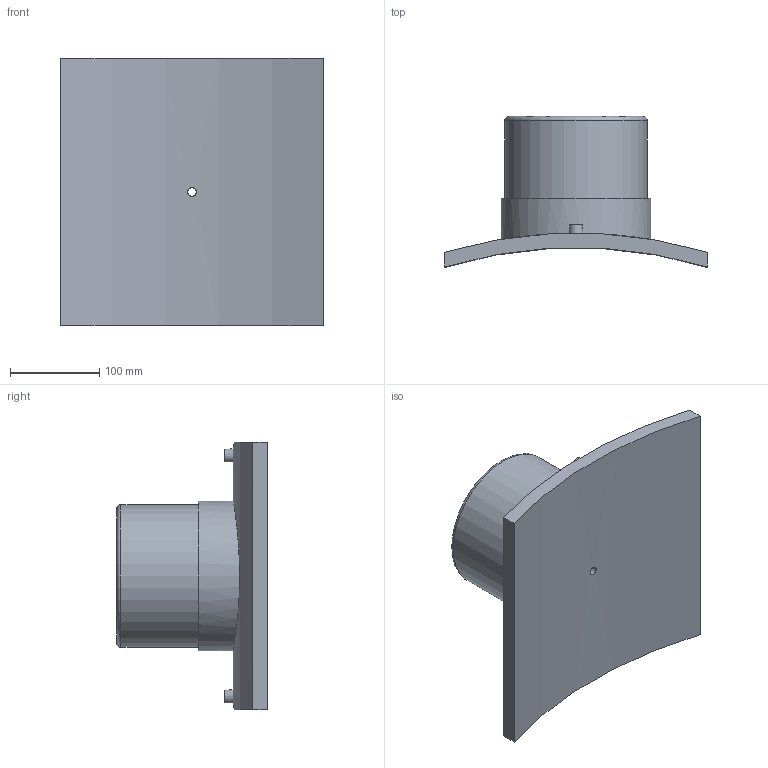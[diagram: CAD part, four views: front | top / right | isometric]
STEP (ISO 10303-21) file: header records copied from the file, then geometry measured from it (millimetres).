
FILE_DESCRIPTION(/* description */ ('PLASSON BRANCH SADDLE 1000x160'),/* implementation_level */ '2;1');
FILE_NAME(/* name */ 'C:\Dropbox\99-16-3568-Processing\ElectroFusion Fittings\495803\4958031000160T.ipt.stp',/* time_stamp */ '2021-02-25T09:42:53+02:00',/* author */ ('KIM'),/* organization */ (''),/* preprocessor_version */ 'ST-DEVELOPER v17.2',/* originating_system */ 'Autodesk Inventor 2019',/* authorisation */ '');
FILE_SCHEMA (('AUTOMOTIVE_DESIGN { 1 0 10303 214 3 1 1 }'));
Length unit declared in the file: millimetre
Products named in the file (1): 4958031000160T
Bounding box: 295 x 169.25 x 300 mm (x, y, z)
Volume: 2494945.3 mm3; surface area: 326922.2 mm2
Topology: 1 solids, 1 shells, 29 faces, 60 edges, 43 vertices
Faces by surface type: plane 13, cylinder 12, torus 2, cone 2
Full cylindrical faces by diameter (mm): 4 x2, 9.6 x1, 10 x2, 16 x1, 128 x1, 160 x1, 168 x1
Entity records: 1086 total; most frequent: CARTESIAN_POINT 400, DIRECTION 139, ORIENTED_EDGE 120, EDGE_CURVE 60, AXIS2_PLACEMENT_3D 60, VERTEX_POINT 43, EDGE_LOOP 41, CIRCLE 30
